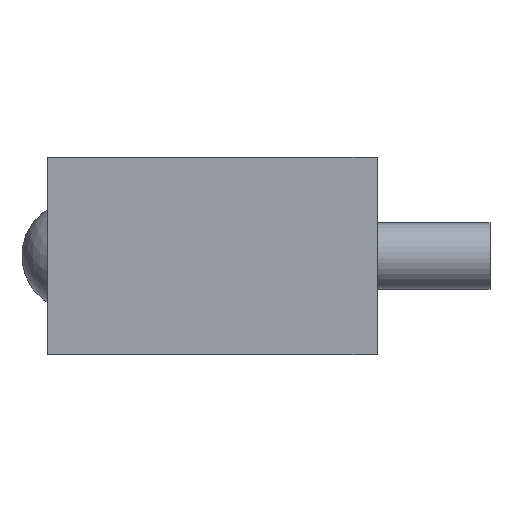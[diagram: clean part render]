
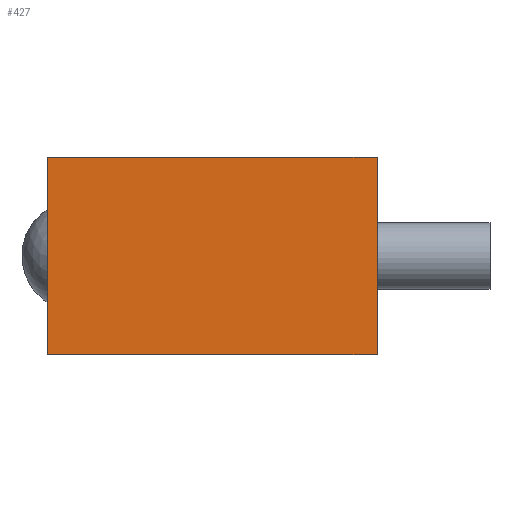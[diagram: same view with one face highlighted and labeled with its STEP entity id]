
A CAD part, left-side view. The second image highlights one B-rep face of the part: STEP entity #427.
In plain terms, the highlighted planar face has unit normal (-1, 0, 0).
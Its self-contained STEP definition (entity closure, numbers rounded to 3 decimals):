
#21=LINE('',#709,#37);
#27=LINE('',#724,#43);
#31=LINE('',#736,#47);
#33=LINE('',#739,#49);
#37=VECTOR('',#600,10.);
#43=VECTOR('',#610,10.);
#47=VECTOR('',#626,10.);
#49=VECTOR('',#630,10.);
#82=PLANE('',#503);
#112=FACE_OUTER_BOUND('',#162,.T.);
#162=EDGE_LOOP('',(#339,#340,#341,#342));
#214=VERTEX_POINT('',#707);
#215=VERTEX_POINT('',#708);
#221=VERTEX_POINT('',#721);
#222=VERTEX_POINT('',#723);
#250=EDGE_CURVE('',#214,#215,#21,.T.);
#257=EDGE_CURVE('',#221,#222,#27,.T.);
#263=EDGE_CURVE('',#222,#214,#31,.T.);
#265=EDGE_CURVE('',#215,#221,#33,.T.);
#339=ORIENTED_EDGE('',*,*,#257,.F.);
#340=ORIENTED_EDGE('',*,*,#265,.F.);
#341=ORIENTED_EDGE('',*,*,#250,.F.);
#342=ORIENTED_EDGE('',*,*,#263,.F.);
#427=ADVANCED_FACE('',(#112),#82,.T.);
#503=AXIS2_PLACEMENT_3D('',#738,#628,#629);
#600=DIRECTION('',(0.,0.,1.));
#610=DIRECTION('',(0.,0.,-1.));
#626=DIRECTION('',(0.,1.,0.));
#628=DIRECTION('center_axis',(-1.,0.,0.));
#629=DIRECTION('ref_axis',(0.,-1.,0.));
#630=DIRECTION('',(0.,-1.,0.));
#707=CARTESIAN_POINT('',(-170.,14.9,-8.9));
#708=CARTESIAN_POINT('',(-170.,14.9,8.9));
#709=CARTESIAN_POINT('',(-170.,14.9,0.));
#721=CARTESIAN_POINT('',(-170.,-14.9,8.9));
#723=CARTESIAN_POINT('',(-170.,-14.9,-8.9));
#724=CARTESIAN_POINT('',(-170.,-14.9,0.));
#736=CARTESIAN_POINT('',(-170.,14.9,-8.9));
#738=CARTESIAN_POINT('Origin',(-170.,14.9,0.));
#739=CARTESIAN_POINT('',(-170.,14.9,8.9));
